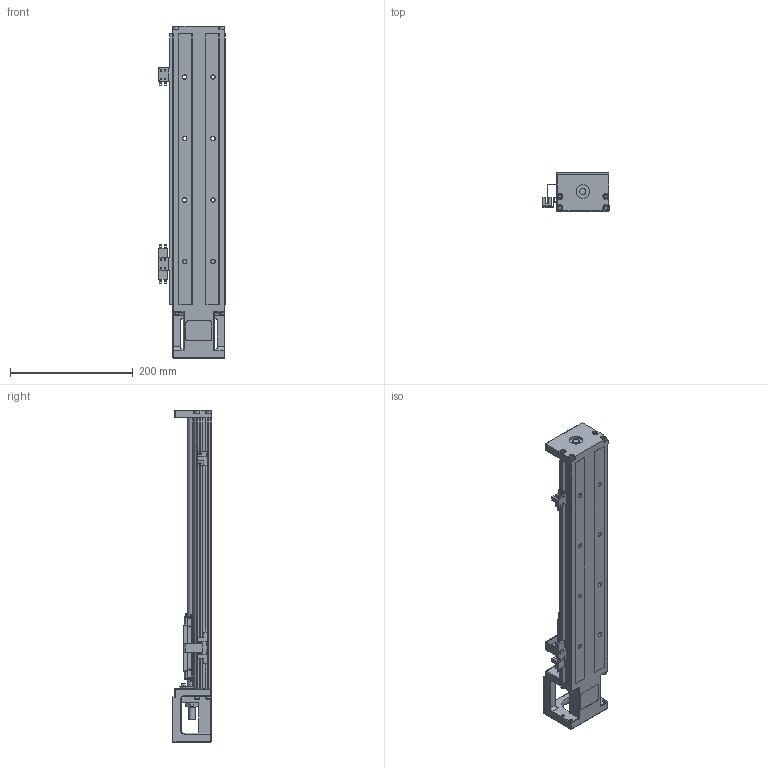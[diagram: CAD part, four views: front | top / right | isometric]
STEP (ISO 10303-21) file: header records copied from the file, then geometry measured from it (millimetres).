
FILE_DESCRIPTION (( 'STEP AP214' ), '1' );
FILE_NAME ('SFKK86-440A1-F0.STEP', '2022-05-05T03:47:18', ( '微软用户' ), ( '微软中国' ), 'SwSTEP 2.0', 'SolidWorks 2018', '' );
FILE_SCHEMA (( 'AUTOMOTIVE_DESIGN' ));
Length unit declared in the file: millimetre
Products named in the file (8): SX674嫖萇羲壽; 开关固定座：KK-674S2-F; SFKK86-LR 憤癹寢耋_440; 极限轨道与开关固定座组合_440; SFKK86-440A1-F0; 不带盖挡光片：KK-86-S2-D2; SFKK86-F0_KKR86-ZT-P-440; SFKK86-A1
Assembly tree (10 placements, depth 3):
  SFKK86-440A1-F0
    SFKK86-F0_KKR86-ZT-P-440
    SFKK86-A1
    极限轨道与开关固定座组合_440
      SFKK86-LR 憤癹寢耋_440
      开关固定座：KK-674S2-F  x2
    不带盖挡光片：KK-86-S2-D2
    SX674嫖萇羲壽  x3
Bounding box: 108.25 x 64 x 540 mm (x, y, z)
Volume: 1102838.2 mm3; surface area: 285284.4 mm2
Topology: 26 solids, 26 shells, 1454 faces, 3747 edges, 2346 vertices
Faces by surface type: plane 724, cylinder 516, cone 138, torus 47, sphere 23, bspline 6
Entity records: 49667 total; most frequent: CARTESIAN_POINT 10976, DIRECTION 7026, ORIENTED_EDGE 6744, EDGE_CURVE 3372, AXIS2_PLACEMENT_3D 2461, VERTEX_POINT 2152, LINE 2104, VECTOR 2104
